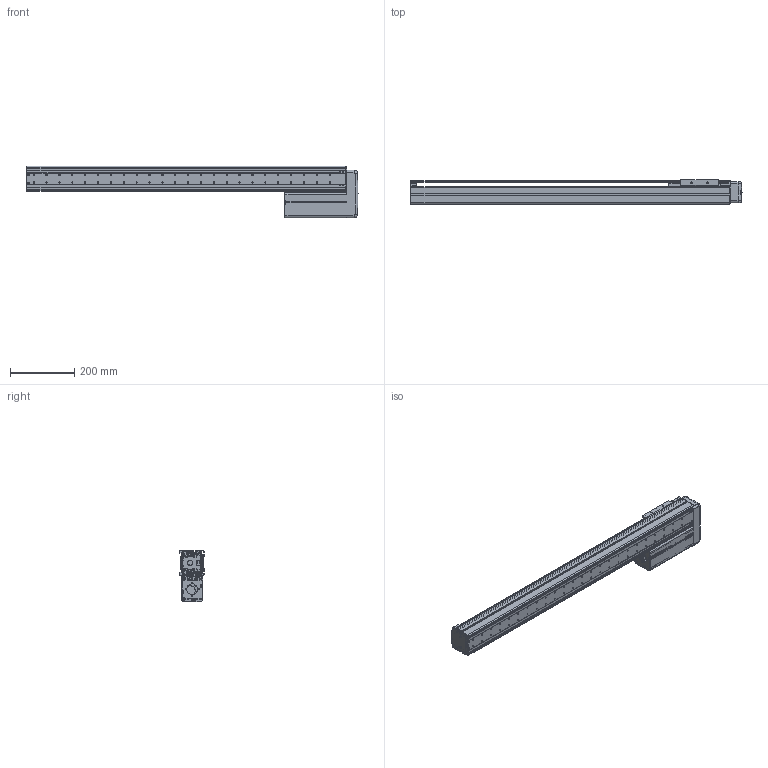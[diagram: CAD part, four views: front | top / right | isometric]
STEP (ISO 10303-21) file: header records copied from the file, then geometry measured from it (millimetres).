
FILE_DESCRIPTION((''),'2;1');
FILE_NAME('BE10E-UL-M_B-80_IGS_PRT','2017-06-17T',(' '),(''),'PRO/ENGINEER BY PARAMETRIC TECHNOLOGY CORPORATION, 2015030','PRO/ENGINEER BY PARAMETRIC TECHNOLOGY CORPORATION, 2015030','');
FILE_SCHEMA(('CONFIG_CONTROL_DESIGN'));
Length unit declared in the file: millimetre
Products named in the file (1): BE10E-UL-M_B-80_IGS_PRT
Bounding box: 1032 x 75 x 160 mm (x, y, z)
Volume: 1453123.9 mm3; surface area: 1033631.1 mm2
Topology: 4 solids, 128 shells, 1850 faces, 4991 edges, 3261 vertices
Faces by surface type: cylinder 911, plane 711, cone 81, torus 71, sphere 44, bspline 32
Entity records: 60553 total; most frequent: CARTESIAN_POINT 12796, DIRECTION 10378, ORIENTED_EDGE 9440, EDGE_CURVE 4955, AXIS2_PLACEMENT_3D 3907, VERTEX_POINT 3261, VECTOR 2564, LINE 2564
